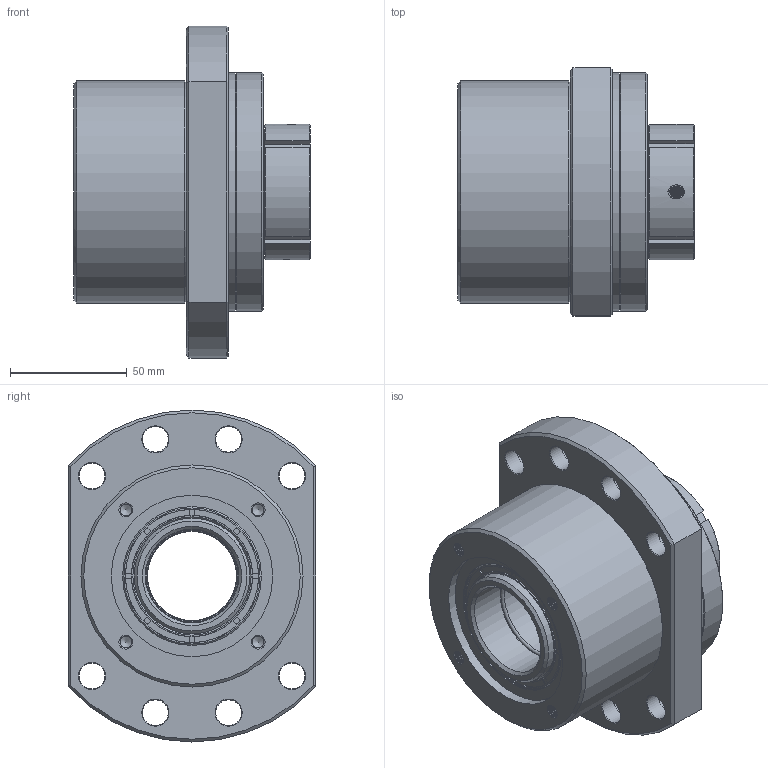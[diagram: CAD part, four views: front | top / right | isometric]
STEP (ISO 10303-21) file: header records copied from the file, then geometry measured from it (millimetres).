
FILE_DESCRIPTION(('STEP AP214'),'1');
FILE_NAME('WBK40DFD (2).stp','2016-10-05T11:44:37',(' '),(' '),'Spatial InterOp 3D',' ',' ');
FILE_SCHEMA(('automotive_design'));
Length unit declared in the file: millimetre
Products named in the file (3): Assembly27; WBK40DFD_1; WBK40DFD
Assembly tree (2 placements, depth 2):
  Assembly27
    WBK40DFD_1
    WBK40DFD
Bounding box: 101 x 106 x 142 mm (x, y, z)
Volume: 526149.7 mm3; surface area: 131123 mm2
Topology: 2 solids, 32 shells, 1294 faces, 3371 edges, 2051 vertices
Faces by surface type: cone 563, plane 311, torus 168, sphere 132, cylinder 120
Full cylindrical faces by diameter (mm): 5 x10, 6.6 x8, 8 x8, 9 x8, 11 x8, 13 x8, 14 x8, 17.5 x8, 40 x5, 41.2 x1, 49.4 x7, 50 x1, 51.8 x4, 57 x10, 59.4 x3, 63.2 x2, 69 x2, 70.8 x1, 72 x5, 93.8 x1, 95 x1, 102 x2
Entity records: 61132 total; most frequent: CARTESIAN_POINT 13094, DIRECTION 5220, ORIENTED_EDGE 4796, STYLED_ITEM 3626, PRESENTATION_STYLE_ASSIGNMENT 3626, COLOUR_RGB 3626, EDGE_CURVE 2398, CURVE_STYLE 2398
